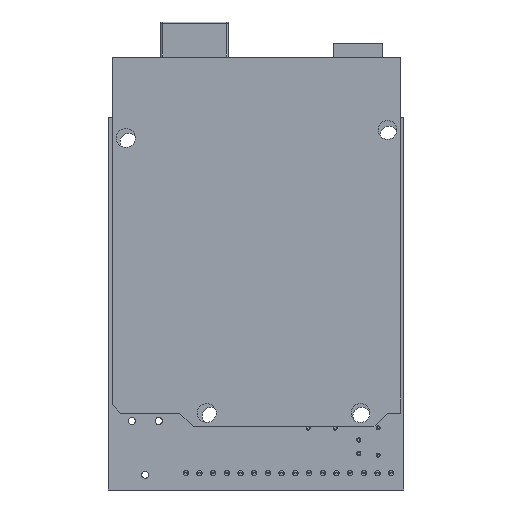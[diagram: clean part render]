
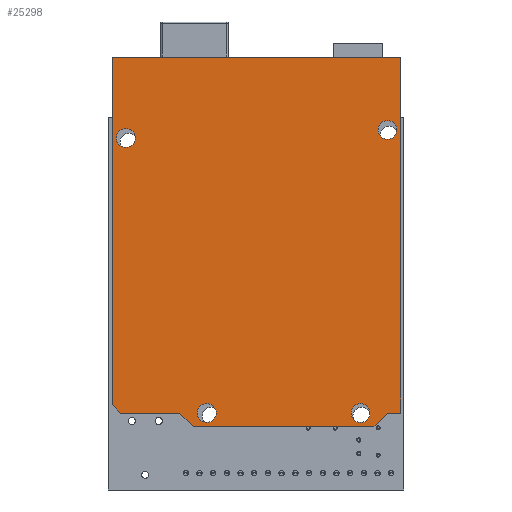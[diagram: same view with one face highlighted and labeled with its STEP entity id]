
A CAD part, front view. The second image highlights one B-rep face of the part: STEP entity #25298.
In plain terms, the highlighted planar face has unit normal (0, -1, 0) as drawn and (0, 0, -1) by its records, which use the part's own axes.
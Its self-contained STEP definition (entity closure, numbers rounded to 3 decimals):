
#448 = AXIS2_PLACEMENT_3D ( 'NONE', #1362, #45903, #23654 ) ;
#1362 = CARTESIAN_POINT ( 'NONE',  ( -55., 2.5, 0. ) ) ;
#1380 = AXIS2_PLACEMENT_3D ( 'NONE', #42002, #69672, #36952 ) ;
#2017 = CARTESIAN_POINT ( 'NONE',  ( -2.5, 41., 0. ) ) ;
#2189 = VERTEX_POINT ( 'NONE', #56214 ) ;
#2303 = FACE_BOUND ( 'NONE', #27620, .T. ) ;
#2812 = VERTEX_POINT ( 'NONE', #13986 ) ;
#3493 = VERTEX_POINT ( 'NONE', #58564 ) ;
#3758 = ORIENTED_EDGE ( 'NONE', *, *, #45085, .T. ) ;
#4398 = ORIENTED_EDGE ( 'NONE', *, *, #42079, .T. ) ;
#5569 = DIRECTION ( 'NONE',  ( 0., -1., 0. ) ) ;
#6139 = EDGE_CURVE ( 'NONE', #68402, #61074, #15594, .T. ) ;
#7050 = CARTESIAN_POINT ( 'NONE',  ( -51.75, 51., 0. ) ) ;
#7131 = ORIENTED_EDGE ( 'NONE', *, *, #6139, .T. ) ;
#7762 = LINE ( 'NONE', #2017, #50706 ) ;
#7791 = CARTESIAN_POINT ( 'NONE',  ( -2.5, 52., 0. ) ) ;
#9020 = VERTEX_POINT ( 'NONE', #22094 ) ;
#9151 = VERTEX_POINT ( 'NONE', #28226 ) ;
#9669 = CARTESIAN_POINT ( 'NONE',  ( 0., 5., 0. ) ) ;
#9865 = AXIS2_PLACEMENT_3D ( 'NONE', #54767, #50746, #17001 ) ;
#10188 = DIRECTION ( 'NONE',  ( 0., -1., 0. ) ) ;
#10349 = LINE ( 'NONE', #9669, #50386 ) ;
#10479 = ORIENTED_EDGE ( 'NONE', *, *, #20111, .T. ) ;
#10608 = CARTESIAN_POINT ( 'NONE',  ( -2.5, 2.5, 0. ) ) ;
#10680 = ORIENTED_EDGE ( 'NONE', *, *, #67973, .T. ) ;
#10848 = DIRECTION ( 'NONE',  ( 0., 0., 1. ) ) ;
#12044 = DIRECTION ( 'NONE',  ( 0., 0., 1. ) ) ;
#13569 = DIRECTION ( 'NONE',  ( -1., 0., 0. ) ) ;
#13702 = CARTESIAN_POINT ( 'NONE',  ( -68.5, 53.5, 0. ) ) ;
#13827 = CARTESIAN_POINT ( 'NONE',  ( -68.5, 0., 0. ) ) ;
#13986 = CARTESIAN_POINT ( 'NONE',  ( -53.25, 2.5, 0. ) ) ;
#15594 = CIRCLE ( 'NONE', #67205, 1.75 ) ;
#16517 = VECTOR ( 'NONE', #51613, 1000. ) ;
#16747 = CARTESIAN_POINT ( 'NONE',  ( -53.5, 51., 0. ) ) ;
#17001 = DIRECTION ( 'NONE',  ( 1., 0., 0. ) ) ;
#17087 = EDGE_CURVE ( 'NONE', #64199, #29121, #23565, .T. ) ;
#17694 = DIRECTION ( 'NONE',  ( 0.707, -0.707, 0. ) ) ;
#18852 = VECTOR ( 'NONE', #5569, 1000. ) ;
#19442 = EDGE_CURVE ( 'NONE', #9151, #47983, #60360, .T. ) ;
#19531 = FACE_OUTER_BOUND ( 'NONE', #22491, .T. ) ;
#20005 = CARTESIAN_POINT ( 'NONE',  ( -2.5, 0., 0. ) ) ;
#20111 = EDGE_CURVE ( 'NONE', #2189, #64138, #57901, .T. ) ;
#21730 = LINE ( 'NONE', #10608, #18852 ) ;
#22094 = CARTESIAN_POINT ( 'NONE',  ( 0., 5., 0. ) ) ;
#22144 = VERTEX_POINT ( 'NONE', #27572 ) ;
#22491 = EDGE_LOOP ( 'NONE', ( #42117, #10479, #54357, #10680, #35743, #70674, #3758, #37414, #61928 ) ) ;
#22786 = CARTESIAN_POINT ( 'NONE',  ( -2.5, 52., 0. ) ) ;
#22881 = VERTEX_POINT ( 'NONE', #57984 ) ;
#23072 = LINE ( 'NONE', #33529, #32779 ) ;
#23140 = CARTESIAN_POINT ( 'NONE',  ( -4., 53.5, 0. ) ) ;
#23565 = CIRCLE ( 'NONE', #35061, 1.75 ) ;
#23654 = DIRECTION ( 'NONE',  ( 1., 0., 0. ) ) ;
#23676 = EDGE_CURVE ( 'NONE', #70199, #22881, #21730, .T. ) ;
#23862 = CARTESIAN_POINT ( 'NONE',  ( -4.25, 36., 0. ) ) ;
#23954 = LINE ( 'NONE', #7791, #16517 ) ;
#24229 = FACE_BOUND ( 'NONE', #50612, .T. ) ;
#24607 = CARTESIAN_POINT ( 'NONE',  ( -2.5, 41., 0. ) ) ;
#24818 = ORIENTED_EDGE ( 'NONE', *, *, #54875, .T. ) ;
#24952 = FACE_BOUND ( 'NONE', #52578, .T. ) ;
#25009 = CARTESIAN_POINT ( 'NONE',  ( -53.5, 51., 0. ) ) ;
#25298 = ADVANCED_FACE ( 'NONE', ( #19531, #24952, #2303, #24229, #41490 ), #46856, .F. ) ;
#25419 = EDGE_CURVE ( 'NONE', #3493, #9020, #37537, .T. ) ;
#25438 = EDGE_CURVE ( 'NONE', #64138, #52190, #23072, .T. ) ;
#27572 = CARTESIAN_POINT ( 'NONE',  ( -68.5, 0., 0. ) ) ;
#27620 = EDGE_LOOP ( 'NONE', ( #4398, #7131 ) ) ;
#28226 = CARTESIAN_POINT ( 'NONE',  ( -55.25, 51., 0. ) ) ;
#28784 = EDGE_CURVE ( 'NONE', #31357, #2812, #48419, .T. ) ;
#29103 = EDGE_CURVE ( 'NONE', #41903, #3493, #7762, .T. ) ;
#29121 = VERTEX_POINT ( 'NONE', #50885 ) ;
#29180 = DIRECTION ( 'NONE',  ( 1., 0., 0. ) ) ;
#29343 = VECTOR ( 'NONE', #10188, 1000. ) ;
#30042 = DIRECTION ( 'NONE',  ( 0.707, -0.707, 0. ) ) ;
#31357 = VERTEX_POINT ( 'NONE', #31376 ) ;
#31376 = CARTESIAN_POINT ( 'NONE',  ( -56.75, 2.5, 0. ) ) ;
#32469 = CARTESIAN_POINT ( 'NONE',  ( -2.5, 36., 0. ) ) ;
#32779 = VECTOR ( 'NONE', #17694, 1000. ) ;
#33529 = CARTESIAN_POINT ( 'NONE',  ( -4., 53.5, 0. ) ) ;
#35061 = AXIS2_PLACEMENT_3D ( 'NONE', #32469, #41847, #36800 ) ;
#35438 = DIRECTION ( 'NONE',  ( 0., 0., 1. ) ) ;
#35570 = ORIENTED_EDGE ( 'NONE', *, *, #51465, .T. ) ;
#35743 = ORIENTED_EDGE ( 'NONE', *, *, #29103, .T. ) ;
#36102 = DIRECTION ( 'NONE',  ( 0., 0., 1. ) ) ;
#36441 = EDGE_CURVE ( 'NONE', #22144, #2189, #63051, .T. ) ;
#36800 = DIRECTION ( 'NONE',  ( 1., 0., 0. ) ) ;
#36952 = DIRECTION ( 'NONE',  ( 1., 0., 0. ) ) ;
#37343 = CARTESIAN_POINT ( 'NONE',  ( -4.25, 7.5, 0. ) ) ;
#37414 = ORIENTED_EDGE ( 'NONE', *, *, #23676, .T. ) ;
#37537 = LINE ( 'NONE', #43600, #29343 ) ;
#39649 = VECTOR ( 'NONE', #41882, 1000. ) ;
#40487 = VECTOR ( 'NONE', #29180, 1000. ) ;
#40541 = LINE ( 'NONE', #20005, #40674 ) ;
#40674 = VECTOR ( 'NONE', #13569, 1000. ) ;
#41490 = FACE_BOUND ( 'NONE', #52503, .T. ) ;
#41847 = DIRECTION ( 'NONE',  ( 0., 0., 1. ) ) ;
#41882 = DIRECTION ( 'NONE',  ( 0., 1., 0. ) ) ;
#41903 = VERTEX_POINT ( 'NONE', #24607 ) ;
#42002 = CARTESIAN_POINT ( 'NONE',  ( -55., 2.5, 0. ) ) ;
#42079 = EDGE_CURVE ( 'NONE', #61074, #68402, #62829, .T. ) ;
#42117 = ORIENTED_EDGE ( 'NONE', *, *, #36441, .T. ) ;
#43600 = CARTESIAN_POINT ( 'NONE',  ( 0., 38.5, 0. ) ) ;
#45085 = EDGE_CURVE ( 'NONE', #9020, #70199, #10349, .T. ) ;
#45448 = CARTESIAN_POINT ( 'NONE',  ( -0.75, 7.5, 0. ) ) ;
#45598 = AXIS2_PLACEMENT_3D ( 'NONE', #53710, #59460, #70589 ) ;
#45903 = DIRECTION ( 'NONE',  ( 0., 0., 1. ) ) ;
#46856 = PLANE ( 'NONE',  #56868 ) ;
#47889 = CARTESIAN_POINT ( 'NONE',  ( -2.5, 7.5, 0. ) ) ;
#47983 = VERTEX_POINT ( 'NONE', #7050 ) ;
#48097 = DIRECTION ( 'NONE',  ( -0.707, -0.707, 0. ) ) ;
#48419 = CIRCLE ( 'NONE', #1380, 1.75 ) ;
#49628 = DIRECTION ( 'NONE',  ( 1., 0., 0. ) ) ;
#50386 = VECTOR ( 'NONE', #48097, 1000. ) ;
#50506 = EDGE_CURVE ( 'NONE', #22881, #22144, #40541, .T. ) ;
#50612 = EDGE_LOOP ( 'NONE', ( #68558, #24818 ) ) ;
#50706 = VECTOR ( 'NONE', #30042, 1000. ) ;
#50746 = DIRECTION ( 'NONE',  ( 0., 0., 1. ) ) ;
#50885 = CARTESIAN_POINT ( 'NONE',  ( -0.75, 36., 0. ) ) ;
#51183 = EDGE_CURVE ( 'NONE', #29121, #64199, #59225, .T. ) ;
#51465 = EDGE_CURVE ( 'NONE', #2812, #31357, #67058, .T. ) ;
#51613 = DIRECTION ( 'NONE',  ( 0., -1., 0. ) ) ;
#52190 = VERTEX_POINT ( 'NONE', #22786 ) ;
#52323 = DIRECTION ( 'NONE',  ( 1., 0., 0. ) ) ;
#52503 = EDGE_LOOP ( 'NONE', ( #63395, #35570 ) ) ;
#52578 = EDGE_LOOP ( 'NONE', ( #57672, #56796 ) ) ;
#53710 = CARTESIAN_POINT ( 'NONE',  ( -2.5, 7.5, 0. ) ) ;
#54357 = ORIENTED_EDGE ( 'NONE', *, *, #25438, .T. ) ;
#54767 = CARTESIAN_POINT ( 'NONE',  ( -2.5, 36., 0. ) ) ;
#54875 = EDGE_CURVE ( 'NONE', #47983, #9151, #61485, .T. ) ;
#56214 = CARTESIAN_POINT ( 'NONE',  ( -68.5, 53.5, 0. ) ) ;
#56796 = ORIENTED_EDGE ( 'NONE', *, *, #51183, .T. ) ;
#56868 = AXIS2_PLACEMENT_3D ( 'NONE', #63385, #36102, #58013 ) ;
#57672 = ORIENTED_EDGE ( 'NONE', *, *, #17087, .T. ) ;
#57901 = LINE ( 'NONE', #13702, #40487 ) ;
#57984 = CARTESIAN_POINT ( 'NONE',  ( -2.5, 0., 0. ) ) ;
#58013 = DIRECTION ( 'NONE',  ( 1., 0., 0. ) ) ;
#58564 = CARTESIAN_POINT ( 'NONE',  ( 0., 38.5, 0. ) ) ;
#59225 = CIRCLE ( 'NONE', #9865, 1.75 ) ;
#59460 = DIRECTION ( 'NONE',  ( 0., 0., 1. ) ) ;
#60360 = CIRCLE ( 'NONE', #61607, 1.75 ) ;
#60922 = DIRECTION ( 'NONE',  ( 1., 0., 0. ) ) ;
#61074 = VERTEX_POINT ( 'NONE', #37343 ) ;
#61485 = CIRCLE ( 'NONE', #66076, 1.75 ) ;
#61607 = AXIS2_PLACEMENT_3D ( 'NONE', #25009, #35438, #52323 ) ;
#61928 = ORIENTED_EDGE ( 'NONE', *, *, #50506, .T. ) ;
#62829 = CIRCLE ( 'NONE', #45598, 1.75 ) ;
#63051 = LINE ( 'NONE', #13827, #39649 ) ;
#63385 = CARTESIAN_POINT ( 'NONE',  ( -2.5, 36., 0. ) ) ;
#63395 = ORIENTED_EDGE ( 'NONE', *, *, #28784, .T. ) ;
#64138 = VERTEX_POINT ( 'NONE', #23140 ) ;
#64199 = VERTEX_POINT ( 'NONE', #23862 ) ;
#66076 = AXIS2_PLACEMENT_3D ( 'NONE', #16747, #12044, #60922 ) ;
#67058 = CIRCLE ( 'NONE', #448, 1.75 ) ;
#67205 = AXIS2_PLACEMENT_3D ( 'NONE', #47889, #10848, #49628 ) ;
#67973 = EDGE_CURVE ( 'NONE', #52190, #41903, #23954, .T. ) ;
#68402 = VERTEX_POINT ( 'NONE', #45448 ) ;
#68558 = ORIENTED_EDGE ( 'NONE', *, *, #19442, .T. ) ;
#69672 = DIRECTION ( 'NONE',  ( 0., 0., 1. ) ) ;
#70199 = VERTEX_POINT ( 'NONE', #71024 ) ;
#70589 = DIRECTION ( 'NONE',  ( 1., 0., 0. ) ) ;
#70674 = ORIENTED_EDGE ( 'NONE', *, *, #25419, .T. ) ;
#71024 = CARTESIAN_POINT ( 'NONE',  ( -2.5, 2.5, 0. ) ) ;
